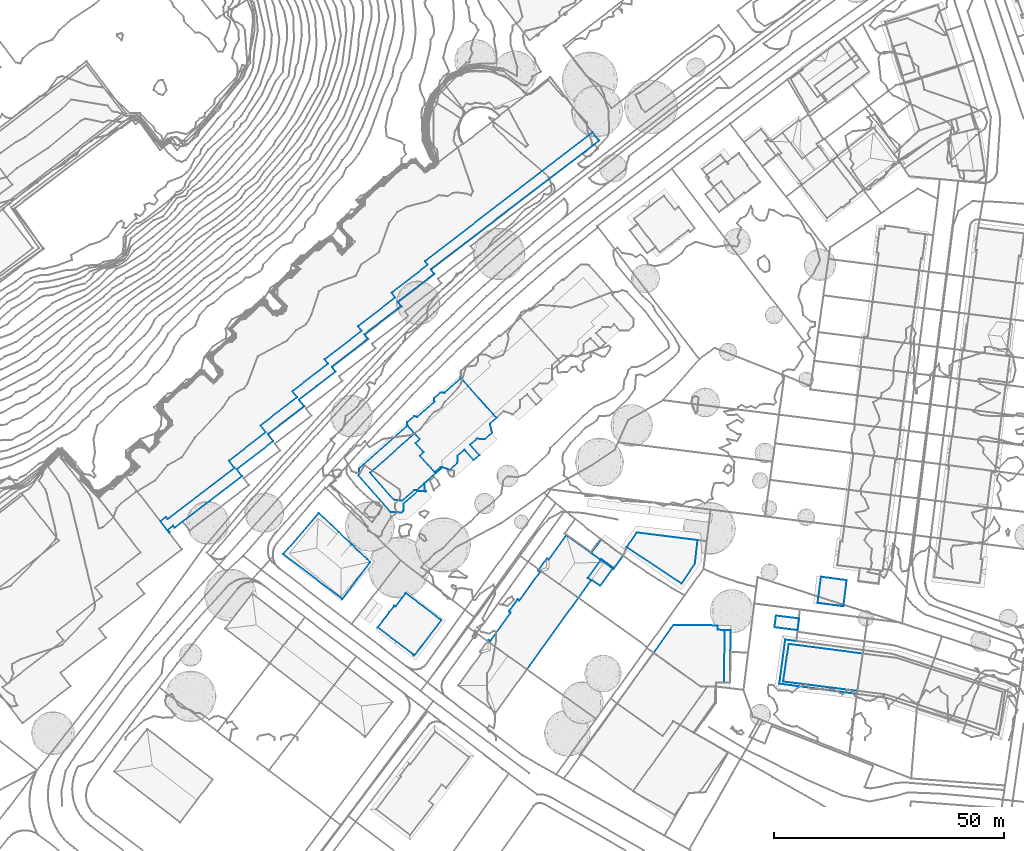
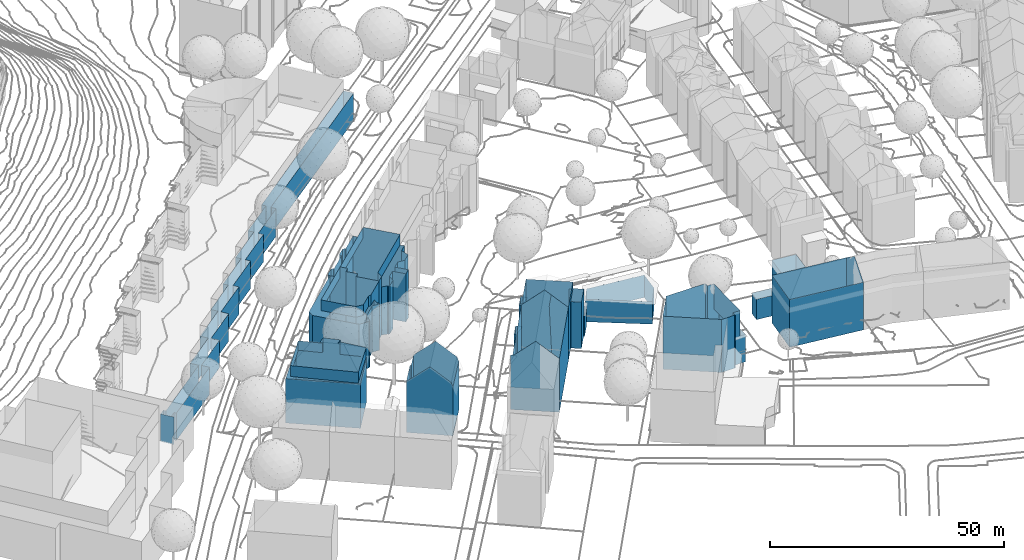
# Not in any storey, part 31 of 494: 12 walls.
"""IFC2X3 model written with IfcOpenShell, lengths in metres."""

from ifc_helpers import new_model, si_unit, frame, origin_with_axes, place, context, subcontext, project, faceted_brep, element, save


model = new_model("IFC2X3")

# Units and contexts
model_context = context("Model", 3, precision=1e-05, world=origin_with_axes())
body_context = subcontext(model_context, "Body", "Model", "MODEL_VIEW")
ifc_project = project(units=[si_unit("AREAUNIT", "SQUARE_METRE"), si_unit("LENGTHUNIT", "METRE")], contexts=[model_context])

# Walls
wall_1_placement = place(None, frame((340.8067320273, 67.2771160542, 499.5586), z_axis=(0.0, 0.0, 1.0), x_axis=(1.0, 0.0, 0.0)))
element("IfcWall", 1, at=wall_1_placement, Name="Wall 0", context=body_context, shape_type="Brep", body=[
    faceted_brep([(7.5969999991, -9.3476000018, 15.3595), (6.2359999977, -10.5556000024, 15.3595), (7.5969999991, -9.3476000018, 0.095), (7.5209999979, -7.7851000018, 15.3595), (7.5929999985, -9.2568000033, 12.5588), (7.5209999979, -7.7851000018, 12.5588), (7.5929999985, -9.2568000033, 0.095), (18.8200000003, 2.2441999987, 15.3595), (18.8200000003, 2.2441999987, 12.5588), (1.6530000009, -1.8671000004, 15.3595), (13.2949999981, 8.4667999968, 15.3595), (1.6530000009, -1.8671000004, 12.5588), (11.699000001, 10.0976999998, 12.5588), (11.7049999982, 10.2568999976, 12.5588), (11.699000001, 10.0976999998, 0.0), (8.1259999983, 6.9316999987, 12.5588), (8.1259999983, 6.9316999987, 0.0), (8.0399999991, 7.0283999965, 12.5588), (8.0399999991, 7.0283999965, 0.0), (7.3550000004, 7.0566999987, 12.5588), (7.3550000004, 7.0566999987, 0.0), (5.9439999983, 5.8046999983, 12.5588), (5.9439999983, 5.8046999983, 0.0), (5.8999999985, 5.1328999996, 12.5588), (5.8999999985, 5.1328999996, 0.0), (5.9859999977, 5.0351999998, 12.5588), (5.9859999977, 5.0351999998, 0.0), (2.2349999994, 1.7138999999, 12.5588), (2.2349999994, 1.7138999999, 0.0), (2.1490000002, 1.8105999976, 12.5588), (2.1490000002, 1.8105999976, 0.0), (1.4869999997, 1.8486999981, 12.5588), (1.4869999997, 1.8486999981, 0.0), (0.0379999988, 0.5615999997, 12.5588), (0.0379999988, 0.5615999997, 0.0), (0.0, 0.0, 12.5588), (0.0, 0.0, 0.0), (9.0009999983, -9.7988000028, 12.5588), (8.8339999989, -9.6103000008, 12.5588), (9.0009999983, -9.7988000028, 0.0), (9.3159999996, -9.8183000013, 12.5588), (9.3159999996, -9.8183000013, 0.0), (10.9439999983, -8.3740000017, 12.5588), (10.9439999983, -8.3740000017, 0.0), (11.0419999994, -6.6972000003, 12.5588), (11.0419999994, -6.6972000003, 0.0), (12.5170000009, -5.3916000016, 12.5588), (12.5170000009, -5.3916000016, 0.0), (14.5480000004, -7.6601000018, 12.5588), (14.5480000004, -7.6601000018, 0.0), (15.7719999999, -6.5732000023, 12.5588), (15.7719999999, -6.5732000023, 0.0), (13.7280000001, -4.3193000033, 12.5588), (13.7280000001, -4.3193000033, 0.0), (15.1950000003, -3.0205000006, 12.5588), (15.1950000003, -3.0205000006, 0.0), (16.8829999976, -3.1611000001, 12.5588), (16.8829999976, -3.1611000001, 0.0), (18.4919999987, -1.7119000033, 12.5588), (18.4919999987, -1.7119000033, 0.0), (18.0460000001, 0.2822999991, 12.5588), (18.0460000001, 0.2822999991, 0.0), (19.4529999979, 1.5312999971, 12.5588), (19.4529999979, 1.5312999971, 0.0), (7.3299999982, -9.1816000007, 0.095), (6.0359999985, -10.3291000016, 0.0), (7.3299999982, -9.1816000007, 0.0), (8.8339999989, -9.6103000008, 0.0), (1.862999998, -3.9589000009, 15.3595), (2.7839999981, -3.1435000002, 15.3595), (1.862999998, -3.9589000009, 0.0), (6.0359999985, -10.3291000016, 0.095), (6.2359999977, -10.5556000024, 0.095), (2.8039999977, -6.6796000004, 15.3595), (2.8039999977, -6.6796000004, 0.0), (11.7049999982, 10.2568999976, 0.0), (13.2949999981, 8.4667999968, 12.5588), (2.7839999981, -3.1435000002, 0.0), (3.6270000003, -5.9501000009, 15.3595), (3.6270000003, -5.9501000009, 0.0)], [[[0, 1, 2]], [[3, 4, 5]], [[4, 3, 0]], [[4, 2, 6]], [[2, 4, 0]], [[7, 3, 8]], [[9, 10, 11]], [[12, 13, 14]], [[15, 12, 16]], [[17, 15, 18]], [[19, 17, 20]], [[21, 19, 22]], [[23, 21, 24]], [[25, 23, 26]], [[27, 25, 28]], [[29, 27, 30]], [[31, 29, 32]], [[33, 31, 34]], [[35, 33, 36]], [[37, 38, 39]], [[40, 37, 41]], [[42, 40, 43]], [[44, 42, 45]], [[46, 44, 47]], [[48, 46, 49]], [[50, 48, 51]], [[52, 50, 53]], [[54, 52, 55]], [[56, 54, 57]], [[58, 56, 59]], [[60, 58, 61]], [[62, 60, 63]], [[64, 65, 66]], [[67, 38, 6]], [[6, 38, 4]], [[6, 64, 66]], [[6, 66, 67]], [[68, 69, 70]], [[1, 71, 72]], [[71, 1, 73]], [[71, 74, 65]], [[74, 71, 73]], [[75, 76, 63]], [[76, 75, 13]], [[7, 8, 10]], [[62, 63, 8]], [[69, 9, 11]], [[77, 11, 36]], [[11, 77, 69]], [[78, 68, 79]], [[73, 78, 74]], [[1, 72, 2]], [[3, 5, 8]], [[10, 76, 11]], [[13, 75, 14]], [[12, 14, 16]], [[15, 16, 18]], [[17, 18, 20]], [[19, 20, 22]], [[21, 22, 24]], [[23, 24, 26]], [[25, 26, 28]], [[27, 28, 30]], [[29, 30, 32]], [[31, 32, 34]], [[33, 34, 36]], [[38, 67, 39]], [[37, 39, 41]], [[40, 41, 43]], [[42, 43, 45]], [[44, 45, 47]], [[46, 47, 49]], [[48, 49, 51]], [[50, 51, 53]], [[52, 53, 55]], [[54, 55, 57]], [[56, 57, 59]], [[58, 59, 61]], [[60, 61, 63]], [[71, 65, 64]], [[69, 77, 70]], [[76, 8, 63]], [[8, 76, 10]], [[11, 35, 36]], [[68, 70, 79]], [[78, 79, 74]]]),
])
wall_2_placement = place(None, frame((330.2977320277, 56.1951160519, 500.0165), z_axis=(0.0, 0.0, 1.0), x_axis=(1.0, 0.0, 0.0)))
element("IfcWall", 2, at=wall_2_placement, Name="Wall 0", context=body_context, shape_type="Brep", body=[
    faceted_brep([(16.7449999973, 0.5263999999, 14.9016), (14.3189999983, -1.6279000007, 12.1009), (16.7449999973, 0.5263999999, -0.028), (12.6629999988, -3.0986000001, 14.9016), (14.3189999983, -1.6279000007, 0.0), (12.6629999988, -3.0986000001, -0.028), (12.6629999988, -3.0986000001, 12.1009), (12.6629999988, -3.0986000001, 0.0), (13.3129999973, 4.4024000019, -0.028), (13.3129999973, 4.4024000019, 14.9016), (13.2929999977, 7.938500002, 14.9016), (12.3719999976, 7.1231000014, 14.9016), (13.2929999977, 7.938500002, -0.028), (2.4809999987, 0.6220999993, 14.9016), (12.1620000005, 9.2149000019, 14.9016), (2.4809999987, 0.6220999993, 12.1009), (7.6979999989, -5.254900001, 0.0), (2.4809999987, 0.6220999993, 0.0), (7.6979999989, -5.254900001, -0.028), (9.4509999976, -5.4442999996, 0.0), (9.4509999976, -5.4442999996, -0.028), (12.0229999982, -3.1611000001, 0.0), (12.0229999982, -3.1611000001, -0.028), (0.1019999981, 1.5967000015, 12.1009), (10.6409999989, 10.932599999, 12.1009), (0.1019999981, 1.5967000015, 0.0), (0.0, 0.0, 12.1009), (0.0, 0.0, 0.0), (6.9910000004, -7.8768999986, 12.1009), (6.9910000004, -7.8768999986, 0.0), (9.3449999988, -8.0175999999, 12.1009), (9.3449999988, -8.0175999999, 0.0), (9.7049999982, -7.7245999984, 12.1009), (9.7049999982, -7.7245999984, 0.0), (9.8019999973, -6.0546999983, 12.1009), (9.8019999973, -6.0546999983, 0.0), (12.8499999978, -3.316399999, 12.1009), (12.8499999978, -3.316399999, 0.0), (14.5249999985, -3.4404000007, 12.1009), (14.5249999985, -3.4404000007, 0.0), (14.6799999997, -3.3037, 12.1009), (14.6799999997, -3.3037, 0.0), (14.3640000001, -2.9481999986, 12.1009), (14.3640000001, -2.9481999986, 0.0), (14.1359999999, 5.1319000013, 14.9016), (14.1359999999, 5.1319000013, -0.028), (12.3719999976, 7.1231000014, -0.028), (12.1620000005, 9.2149000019, 0.0), (2.4809999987, 0.6220999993, -0.028), (7.6979999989, -5.254900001, 14.9016), (7.6979999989, -5.254900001, 12.1009), (9.4509999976, -5.4442999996, 14.9016), (9.4509999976, -5.4442999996, 12.1009), (12.0229999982, -3.1611000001, 14.9016), (12.0229999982, -3.1611000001, 12.1009), (12.1620000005, 9.2149000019, 12.1009), (12.1620000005, 9.2149000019, -0.028), (10.6409999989, 10.932599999, 0.0)], [[[0, 1, 2]], [[1, 0, 3]], [[2, 4, 5]], [[4, 2, 1]], [[3, 6, 1]], [[7, 5, 4]], [[8, 9, 0]], [[10, 11, 12]], [[13, 14, 15]], [[16, 17, 18]], [[19, 16, 20]], [[21, 19, 22]], [[7, 21, 5]], [[23, 24, 25]], [[26, 23, 27]], [[28, 26, 29]], [[30, 28, 31]], [[32, 30, 33]], [[34, 32, 35]], [[36, 34, 37]], [[38, 36, 39]], [[40, 38, 41]], [[42, 40, 43]], [[44, 9, 45]], [[11, 45, 46]], [[17, 47, 48]], [[49, 13, 50]], [[51, 49, 52]], [[53, 51, 54]], [[3, 53, 6]], [[1, 42, 4]], [[55, 47, 24]], [[56, 47, 12]], [[55, 10, 12]], [[0, 2, 8]], [[11, 46, 12]], [[14, 55, 15]], [[17, 48, 18]], [[16, 18, 20]], [[19, 20, 22]], [[21, 22, 5]], [[24, 57, 25]], [[23, 25, 27]], [[26, 27, 29]], [[28, 29, 31]], [[30, 31, 33]], [[32, 33, 35]], [[34, 35, 37]], [[36, 37, 39]], [[38, 39, 41]], [[40, 41, 43]], [[9, 8, 45]], [[44, 45, 11]], [[47, 56, 48]], [[13, 15, 50]], [[49, 50, 52]], [[51, 52, 54]], [[53, 54, 6]], [[42, 43, 4]], [[47, 57, 24]], [[14, 10, 55]], [[12, 47, 55]]]),
])
wall_3_placement = place(None, frame((388.6417320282, 40.6092160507, 499.4665), z_axis=(0.0, 0.0, 1.0), x_axis=(1.0, 0.0, 0.0)))
element("IfcWall", 3, at=wall_3_placement, Name="Wall 0", context=body_context, shape_type="Brep", body=[
    faceted_brep([(15.425999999, 1.5498000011, 5.8824), (14.8159999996, -3.6132999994, 5.8824), (15.425999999, 1.5498000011, 0.0), (2.1380000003, 3.2187000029, 5.8824), (2.1380000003, 3.2187000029, 0.0), (0.0, 0.0, 5.8824), (0.0, 0.0, 0.0), (11.9599999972, -7.9247999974, 5.8824), (11.9599999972, -7.9247999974, 0.0), (14.8159999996, -3.6132999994, 0.0)], [[[0, 1, 2]], [[3, 0, 4]], [[5, 3, 6]], [[7, 5, 8]], [[1, 7, 9]], [[1, 9, 2]], [[0, 2, 4]], [[3, 4, 6]], [[5, 6, 8]], [[7, 8, 9]]]),
])
wall_4_placement = place(None, frame((369.4907320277, 35.7234160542, 499.6315), z_axis=(0.0, 0.0, 1.0), x_axis=(1.0, 0.0, 0.0)))
element("IfcWall", 4, at=wall_4_placement, Name="Wall 0", context=body_context, shape_type="Brep", body=[
    faceted_brep([(16.629999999, 4.2685999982, 5.3015), (18.318, 3.0195999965, 5.3015), (16.629999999, 4.2685999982, -0.038), (13.5739999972, 6.5800999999, 5.3015), (13.5739999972, 6.5800999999, -0.038), (11.4210000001, 3.5898999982, 5.3015), (11.4210000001, 3.5898999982, 0.0), (11.4210000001, 3.5898999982, -0.038), (16.2229999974, 0.1318999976, 5.3015), (18.318, 3.0195999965, -0.038), (11.4769999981, -2.2109000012, 12.0918), (11.3949999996, -2.3252000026, 12.0918), (11.4769999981, -2.2109000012, -0.021), (13.3389999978, -3.5127000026, 12.0918), (13.3389999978, -3.5127000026, -0.021), (11.3649999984, -2.3027000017, 0.0), (11.3949999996, -2.3252000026, -0.021), (11.3649999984, -2.3027000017, 12.0918), (10.6519999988, -1.7890000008, -0.021), (16.0519999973, 0.2548999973, 5.3015), (16.2009999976, 0.4609999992, 5.3015), (16.2009999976, 0.4609999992, 12.0918), (16.0519999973, 0.2548999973, -0.021), (13.6149999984, 2.3232999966, 12.0918), (13.6149999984, 2.3232999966, 5.3015), (10.6519999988, -1.7890000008, 0.0), (13.4670000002, 2.1171999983, 0.0), (2.1679999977, 2.1728999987, 13.9787), (5.9979999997, 7.495199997, 13.9787), (2.1679999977, 2.1728999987, 0.0), (1.7650000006, 2.4628999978, 13.9787), (1.7650000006, 2.4628999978, 0.0), (16.2229999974, 0.1318999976, -0.038), (13.4670000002, 2.1171999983, -0.021), (13.4670000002, 2.1171999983, 5.3015), (13.4659999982, 2.116299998, 12.0918), (14.1779999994, 1.6035999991, 13.9787), (14.1779999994, 1.6035999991, 12.0918), (8.5969999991, -6.1464000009, 13.9786), (8.5969999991, -6.1464000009, 0.0), (5.9979999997, 7.495199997, 0.0), (11.4210000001, 3.5898999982, 13.9787), (0.0, 0.0, 14.1067), (1.6439999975, 2.2939999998, 14.1017), (0.0, 0.0, 0.0), (0.0249999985, -0.0175000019, 14.1326), (0.5480000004, -0.3916000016, 14.1346), (4.4399999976, -3.1738000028, 18.1723), (4.4399999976, -3.1738000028, 0.0), (0.5480000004, -0.3916000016, 0.0)], [[[0, 1, 2]], [[3, 0, 4]], [[5, 3, 6]], [[6, 4, 7]], [[1, 8, 9]], [[10, 11, 12]], [[13, 10, 14]], [[11, 15, 16]], [[15, 11, 17]], [[16, 15, 18]], [[19, 20, 21]], [[19, 13, 14]], [[13, 19, 21]], [[19, 14, 22]], [[23, 21, 24]], [[25, 26, 18]], [[27, 28, 29]], [[30, 27, 31]], [[22, 8, 19]], [[32, 22, 33]], [[26, 6, 33]], [[33, 7, 32]], [[7, 33, 6]], [[23, 34, 35]], [[36, 17, 37]], [[17, 36, 38]], [[17, 39, 15]], [[39, 17, 38]], [[28, 5, 40]], [[5, 28, 41]], [[6, 40, 5]], [[41, 36, 35]], [[37, 35, 36]], [[34, 5, 35]], [[35, 5, 41]], [[42, 43, 30]], [[42, 30, 44]], [[30, 31, 44]], [[45, 42, 46]], [[38, 47, 46]], [[48, 38, 46]], [[46, 42, 49]], [[44, 49, 42]], [[48, 39, 38]], [[48, 46, 49]], [[1, 9, 2]], [[0, 2, 4]], [[3, 4, 6]], [[8, 32, 9]], [[11, 16, 12]], [[10, 12, 14]], [[15, 25, 18]], [[21, 20, 24]], [[26, 33, 18]], [[28, 40, 29]], [[27, 29, 31]], [[32, 8, 22]], [[24, 34, 23]]]),
])
wall_5_placement = place(None, frame((313.8287320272, 39.0809160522, 500.1915), z_axis=(0.0, 0.0, 1.0), x_axis=(1.0, 0.0, 0.0)))
element("IfcWall", 5, at=wall_5_placement, Name="Wall 0", context=body_context, shape_type="Brep", body=[
    faceted_brep([(0.0, 0.0, 11.5769), (7.7670000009, 8.9550000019, 11.5769), (0.0, 0.0, 0.0), (12.8499999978, -9.7138999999, 11.5769), (12.8499999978, -9.7138999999, 0.0), (18.9620000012, -1.7364000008, 11.5769), (18.9620000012, -1.7364000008, 0.0), (7.5929999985, 7.8104999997, 14.0567), (11.6629999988, 4.4257000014, 14.0567), (7.5929999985, 7.8104999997, 11.5769), (1.2569999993, 0.1981999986, 14.4256), (1.2569999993, 0.1981999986, 11.5769), (12.5839999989, -9.2294999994, 14.4256), (12.5839999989, -9.2294999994, 11.5769), (9.4979999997, 1.8242000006, 16.6284), (11.6629999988, 4.4257000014, 15.2725), (12.0370000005, 4.8768999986, 15.0366), (12.0370000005, 4.8768999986, 11.5769), (11.6629999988, 4.4257000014, 11.5769), (14.5, 1.932599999, 15.2845), (14.5, 1.932599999, 14.9096), (14.5659999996, 2.0126999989, 14.8676), (14.5649999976, 2.0106999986, 14.8316), (14.7749999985, 2.2626999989, 15.1405), (14.5659999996, 2.0126999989, 15.2425), (14.7749999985, 2.2626999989, 11.5769), (14.5649999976, 2.0106999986, 11.5769), (14.5649999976, 2.0106999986, 15.2725), (12.3999999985, -0.5909000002, 16.6284), (18.2580000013, -1.0645000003, 14.1746), (18.881000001, -1.6592000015, 14.0586), (18.881000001, -1.6592000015, 11.5769), (12.0370000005, 4.8768999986, 0.0), (7.7670000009, 8.9550000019, 0.0), (14.7749999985, 2.2626999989, 0.0), (18.2580000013, -1.0645000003, 11.5769), (18.2580000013, -1.0645000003, 0.0), (18.8499999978, -1.628899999, 14.0986)], [[[0, 1, 2]], [[3, 0, 4]], [[5, 3, 6]], [[7, 8, 9]], [[10, 7, 11]], [[12, 10, 13]], [[14, 15, 8]], [[8, 15, 16]], [[8, 17, 18]], [[19, 20, 21]], [[22, 23, 21]], [[21, 24, 19]], [[25, 22, 26]], [[23, 22, 25]], [[27, 24, 23]], [[19, 27, 28]], [[22, 21, 20]], [[22, 20, 28]], [[28, 20, 19]], [[24, 27, 19]], [[22, 29, 26]], [[30, 13, 31]], [[25, 16, 23]], [[32, 33, 17]], [[32, 17, 34]], [[35, 36, 25]], [[35, 37, 31]], [[37, 35, 29]], [[30, 31, 37]], [[31, 6, 35]], [[1, 33, 2]], [[0, 2, 4]], [[3, 4, 6]], [[8, 18, 9]], [[7, 9, 11]], [[10, 11, 13]], [[16, 17, 8]], [[23, 24, 21]], [[29, 35, 26]], [[12, 13, 30]], [[17, 16, 25]], [[33, 1, 17]], [[17, 25, 34]], [[36, 34, 25]], [[6, 36, 35]], [[31, 5, 6]]]),
])
wall_6_placement = place(None, frame((394.4647320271, 17.5984160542, 499.0235), z_axis=(0.0, 0.0, 1.0), x_axis=(1.0, 0.0, 0.0)))
element("IfcWall", 6, at=wall_6_placement, Name="Wall 0", context=body_context, shape_type="Brep", body=[
    faceted_brep([(13.938000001, 5.995199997, 13.8347), (13.9409999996, 5.0370999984, 13.8347), (13.938000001, 5.995199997, 0.0), (10.2760000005, -7.3496000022, 13.8347), (0.0, 0.0, 13.8347), (10.2760000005, -7.3496000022, 0.0), (13.493999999, -7.3613000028, 13.8347), (13.495000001, -7.3378000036, 7.1923), (13.493999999, -7.3613000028, 0.0), (13.6490000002, -6.4091000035, 13.8347), (13.6359999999, -7.3623000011, 13.8347), (13.6490000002, -6.4091000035, 0.0), (15.4910000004, 5.0146999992, 13.8347), (15.3619999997, -6.4326000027, 7.1923), (15.4910000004, 5.0146999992, 7.1923), (16.7879999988, 4.995199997, 7.1923), (16.6579999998, -6.4521000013, 7.1923), (16.7879999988, 4.995199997, 0.0), (4.3720000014, 6.1025999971, 0.0), (4.3720000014, 6.1025999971, 13.8347), (13.6359999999, -7.3623000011, 0.0), (13.9409999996, 5.0370999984, 0.0), (15.4910000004, 5.0146999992, 0.0), (3.7740000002, 5.2734999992, 13.8347), (0.0, 0.0, 0.0), (3.7740000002, 5.2734999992, 0.0), (11.8640000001, -7.3427000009, 0.0), (11.8640000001, -7.3427000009, 13.8347), (12.8969999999, -7.3437000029, 0.0), (13.495000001, -7.3369000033, 0.0), (13.495000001, -7.3369000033, 13.8347), (11.7419999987, -7.3427000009, 0.0), (11.7419999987, -7.3427000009, 13.8347), (15.3619999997, -6.433600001, 0.0), (16.6579999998, -6.4521000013, 0.0), (15.3619999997, -6.433600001, 13.8347)], [[[0, 1, 2]], [[3, 4, 5]], [[6, 7, 8]], [[9, 10, 11]], [[12, 13, 14]], [[15, 16, 17]], [[18, 0, 2]], [[0, 18, 19]], [[10, 6, 20]], [[21, 14, 22]], [[15, 22, 14]], [[4, 23, 24]], [[18, 25, 19]], [[26, 7, 27]], [[28, 29, 7]], [[26, 28, 7]], [[7, 30, 27]], [[26, 27, 31]], [[31, 32, 5]], [[33, 16, 13]], [[33, 34, 16]], [[13, 9, 11]], [[9, 13, 35]], [[13, 11, 33]], [[1, 21, 2]], [[4, 24, 5]], [[30, 7, 6]], [[7, 29, 8]], [[10, 20, 11]], [[35, 13, 12]], [[16, 34, 17]], [[6, 8, 20]], [[1, 12, 14]], [[1, 14, 21]], [[17, 22, 15]], [[23, 25, 24]], [[25, 23, 19]], [[27, 32, 31]], [[32, 3, 5]]]),
])
wall_7_placement = place(None, frame((420.8027320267, 23.1951160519, 499.3155), z_axis=(0.0, 0.0, 1.0), x_axis=(1.0, 0.0, 0.0)))
element("IfcWall", 7, at=wall_7_placement, Name="Wall 0", context=body_context, shape_type="Brep", body=[
    faceted_brep([(0.3220000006, 2.5313000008, 5.3155), (5.3189999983, 1.8975000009, 5.3155), (0.3220000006, 2.5313000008, 0.0), (0.0, 0.0, 5.3155), (0.0, 0.0, 0.0), (5.0469999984, -0.6405999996, 5.3155), (5.0469999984, -0.6405999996, 0.0), (5.3189999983, 1.8975000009, 0.0)], [[[0, 1, 2]], [[3, 0, 4]], [[5, 3, 6]], [[1, 5, 7]], [[1, 7, 2]], [[0, 2, 4]], [[3, 4, 6]], [[5, 6, 7]]]),
])
wall_8_placement = place(None, frame((334.417732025, 23.1512160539, 500.1795), z_axis=(0.0, 0.0, 1.0), x_axis=(1.0, 0.0, 0.0)))
element("IfcWall", 8, at=wall_8_placement, Name="Wall 0", context=body_context, shape_type="Brep", body=[
    faceted_brep([(1.3600000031, 1.7801999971, 3.3307), (1.1110000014, 1.4540999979, 13.3337), (2.5240000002, 3.3055999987, 0.0), (0.0, 0.0, 0.0), (0.0, 0.0, 13.3317), (5.2640000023, -4.0196000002, 16.3224), (4.0270000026, -3.0752000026, 17.5753), (4.0270000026, -3.0752000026, 0.0), (1.0030000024, -0.7666000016, 14.3886), (7.0940000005, 6.7157999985, 14.6486), (8.2170000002, 5.8574000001, 0.0), (6.0840000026, 7.4862999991, 13.5847), (6.0840000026, 7.4862999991, 0.0), (9.8710000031, 4.5946999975, 17.5753), (10.5210000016, 4.0986000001, 16.9163), (9.8710000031, 4.5946999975, 5.8584), (10.7310000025, 3.9375, 0.0), (3.8630000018, 4.5702999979, 13.5857), (3.8630000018, 4.5702999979, 0.0), (3.6270000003, 4.75, 0.0), (3.6270000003, 4.75, 13.3377), (7.6610000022, -5.8506000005, 0.0), (7.6610000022, -5.8506000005, 13.8926), (11.2520000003, 3.5389999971, 16.1754), (12.1420000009, 2.860299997, 3.1907), (13.5040000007, 1.8192999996, 13.8926), (13.8380000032, 1.5643999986, 0.0), (12.5370000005, -0.1338, 0.0), (13.8380000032, 1.5643999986, 12.8007), (11.8350000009, -1.0498000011, 12.8247), (11.0450000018, -2.0791000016, 0.0), (10.324000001, -3.0205000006, 12.8427), (9.7310000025, -3.7959000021, 0.0), (7.7160000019, -5.8936000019, 0.0), (7.7149999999, -5.8925999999, 13.7156), (9.3000000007, -4.3574000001, 4.8115), (9.3000000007, -4.3574000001, 12.8547), (8.870000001, -4.9189999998, 12.8597), (8.8570000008, -4.9356000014, 0.0), (7.9730000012, -6.0899000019, 12.8707), (7.9730000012, -6.0899000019, 0.0), (2.5720000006, 3.3680999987, 13.3357)], [[[0, 1, 2]], [[3, 4, 1]], [[0, 2, 3]], [[0, 3, 1]], [[5, 6, 3]], [[5, 3, 7]], [[4, 3, 8]], [[9, 10, 11]], [[11, 10, 12]], [[13, 14, 10]], [[15, 10, 14]], [[15, 16, 10]], [[17, 11, 18]], [[11, 12, 18]], [[19, 20, 17]], [[18, 19, 17]], [[21, 22, 5]], [[5, 7, 21]], [[16, 23, 24]], [[14, 23, 15]], [[23, 25, 24]], [[24, 26, 16]], [[27, 28, 29]], [[26, 28, 27]], [[29, 30, 27]], [[31, 32, 30]], [[26, 25, 28]], [[33, 34, 21]], [[35, 36, 37]], [[38, 37, 39]], [[35, 31, 36]], [[32, 31, 35]], [[38, 32, 35]], [[39, 40, 38]], [[34, 33, 39]], [[39, 33, 40]], [[1, 41, 2]], [[41, 20, 19]], [[2, 41, 19]], [[6, 8, 3]], [[13, 10, 9]], [[23, 16, 15]], [[25, 26, 24]], [[29, 31, 30]], [[22, 21, 34]], [[35, 37, 38]]]),
])
wall_9_placement = place(None, frame((430.1957320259, 28.5057160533, 499.7544), z_axis=(0.0, 0.0, 1.0), x_axis=(1.0, 0.0, 0.0)))
element("IfcWall", 9, at=wall_9_placement, Name="Wall 0", context=body_context, shape_type="Brep", body=[
    faceted_brep([(0.7470000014, 5.6649999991, 4.9066), (6.3170000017, 4.9305999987, 4.9066), (0.7470000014, 5.6649999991, 0.0), (0.0, 0.0, 4.9066), (0.0, 0.0, 0.0), (5.6220000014, -0.7412, 4.9065), (5.6220000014, -0.7412, 0.0), (6.3170000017, 4.9305999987, 0.0)], [[[0, 1, 2]], [[3, 0, 4]], [[5, 3, 6]], [[1, 5, 7]], [[1, 7, 2]], [[0, 2, 4]], [[3, 4, 6]], [[5, 6, 7]]]),
])
wall_10_placement = place(None, frame((358.3217320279, 20.123816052, 499.6315), z_axis=(0.0, 0.0, 1.0), x_axis=(1.0, 0.0, 0.0)))
element("IfcWall", 10, at=wall_10_placement, Name="Wall 0", context=body_context, shape_type="Brep", body=[
    faceted_brep([(8.5529999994, -6.121100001, 13.9786), (4.3979999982, -3.1473999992, 0.0), (8.5529999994, -6.121100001, 0.0), (19.7679999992, 9.4550999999, 13.9786), (19.7679999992, 9.4550999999, 0.0), (15.6089999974, 12.4248000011, 18.1723), (15.6089999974, 12.4248000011, 0.0), (6.4149999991, 8.9600000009, 14.1266), (6.557, 9.1581999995, 13.9787), (6.557, 9.1581999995, 0.0), (6.935999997, 8.884800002, 0.0), (6.935999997, 8.884800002, 13.9787), (11.424999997, 15.1182000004, 13.9787), (11.7170000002, 15.2071000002, 14.1346), (11.7170000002, 15.2071000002, 0.0), (11.0289999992, 15.4033000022, 13.9787), (11.1479999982, 15.5694000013, 14.1087), (11.0289999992, 15.4033000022, 0.0), (11.1689999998, 15.5996000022, 0.0), (11.424999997, 15.1182000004, 0.0), (11.1939999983, 15.5811000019, 14.1326), (11.1939999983, 15.5811000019, 0.0), (11.1689999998, 15.5996000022, 14.1067), (4.3979999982, -3.1473999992, 18.1722), (0.5859999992, -0.4188999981, 14.2176), (0.5869999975, 0.066399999, 13.9787), (5.0409999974, 6.2529999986, 13.9787), (0.5869999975, 0.066399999, 0.0), (0.0, 0.0, 0.0), (0.5859999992, -0.4188999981, 0.0), (0.231999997, 0.3233000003, 0.0), (0.231999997, 0.3233000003, 13.9787), (0.0, 0.0, 14.1506), (0.0659999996, -0.0467999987, 14.2186), (4.810999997, 6.7197999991, 14.1326), (4.6689999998, 6.5205000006, 0.0), (4.6689999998, 6.5205000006, 13.9787), (5.0409999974, 6.2529999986, 0.0), (5.2119999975, 7.2802999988, 5.2975), (5.8149999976, 8.1220999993, 14.1286), (5.9389999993, 8.2949000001, 5.9574), (5.3530000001, 7.4776000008, 14.1306), (4.810999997, 6.7197999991, 0.0), (5.612999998, 7.8399000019, 0.0), (0.0659999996, 0.0918000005, 14.1506)], [[[0, 1, 2]], [[3, 0, 4]], [[5, 3, 6]], [[7, 8, 9]], [[8, 10, 9]], [[10, 8, 11]], [[11, 12, 10]], [[13, 6, 14]], [[15, 16, 17]], [[16, 18, 17]], [[12, 15, 19]], [[15, 17, 19]], [[20, 14, 21]], [[18, 22, 20]], [[21, 18, 20]], [[23, 24, 1]], [[25, 26, 27]], [[24, 28, 29]], [[30, 31, 25]], [[27, 30, 25]], [[28, 32, 30]], [[33, 32, 28]], [[34, 35, 36]], [[26, 35, 37]], [[35, 26, 36]], [[38, 39, 40]], [[34, 41, 42]], [[38, 43, 42]], [[39, 7, 40]], [[40, 43, 38]], [[7, 9, 40]], [[40, 9, 43]], [[23, 1, 0]], [[0, 2, 4]], [[3, 4, 6]], [[12, 19, 10]], [[5, 6, 13]], [[13, 14, 20]], [[16, 22, 18]], [[24, 29, 1]], [[26, 37, 27]], [[44, 31, 30]], [[33, 28, 24]], [[32, 44, 30]], [[35, 34, 42]], [[41, 39, 38]], [[41, 38, 42]]]),
])
wall_11_placement = place(None, frame((287.111732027, 46.2742160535, 500.3625), z_axis=(0.0, 0.0, 1.0), x_axis=(1.0, 0.0, 0.0)))
element("IfcWall", 11, at=wall_11_placement, Name="Wall 0", context=body_context, shape_type="Brep", body=[
    faceted_brep([(16.6169999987, 11.3145000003, 7.1803), (17.7509999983, 9.8407999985, 0.0), (16.6169999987, 11.3145000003, 0.0), (24.5659999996, 17.436499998, 7.1803), (24.5659999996, 17.436499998, 0.0), (23.4169999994, 18.936499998, 7.1803), (23.4169999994, 18.936499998, 0.0), (23.5540000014, 19.0409999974, 7.1803), (23.5540000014, 19.0409999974, 0.0), (23.5199999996, 19.0859999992, 7.1803), (23.5199999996, 19.0859999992, 0.0), (31.2809999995, 25.0595999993, 7.1803), (31.2809999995, 25.0595999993, 0.0), (30.180999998, 26.4892999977, 7.1803), (30.180999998, 26.4892999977, 0.0), (30.2039999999, 26.5136999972, 7.1803), (30.2039999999, 26.5136999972, 0.0), (34.0, 29.4287, 7.1803), (34.0, 29.4287, 0.0), (38.131000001, 32.6006000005, 7.1803), (38.131000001, 32.6006000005, 0.0), (37.3959999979, 33.5605999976, 7.1804), (37.3959999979, 33.5605999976, 0.0), (37.4419999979, 33.5956999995, 7.1804), (37.4419999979, 33.5956999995, 0.0), (37.3500000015, 33.7157999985, 7.1804), (37.3500000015, 33.7157999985, 0.0), (45.1600000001, 39.7275999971, 7.1804), (45.1600000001, 39.7275999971, 0.0), (44.4059999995, 40.7099999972, 7.1804), (44.4059999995, 40.7099999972, 0.0), (52.3969999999, 46.8603999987, 7.1804), (52.3969999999, 46.8603999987, 0.0), (51.7580000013, 47.7001999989, 7.1804), (51.7580000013, 47.7001999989, 0.0), (51.8519999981, 47.7724999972, 7.1804), (51.8519999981, 47.7724999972, 0.0), (51.7800000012, 47.8662, 7.1804), (51.7800000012, 47.8662, 0.0), (59.6220000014, 53.9013999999, 7.1804), (59.6220000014, 53.9013999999, 0.0), (58.943, 54.7890999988, 7.1804), (58.943, 54.7890999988, 0.0), (59.006000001, 54.8378999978, 7.1804), (59.006000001, 54.8378999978, 0.0), (58.932, 54.9345999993, 7.1804), (58.932, 54.9345999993, 0.0), (95.4860000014, 82.8574000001, 7.1804), (95.4860000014, 82.8574000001, 0.0), (94.0659999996, 84.7060999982, 7.1804), (94.0659999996, 84.7060999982, 0.0), (57.6119999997, 56.6493999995, 7.1804), (57.6119999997, 56.6493999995, 0.0), (58.2199999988, 55.8594000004, 7.1804), (58.2199999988, 55.8594000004, 0.0), (50.3110000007, 49.7714999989, 7.1804), (50.3110000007, 49.7714999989, 0.0), (51.1259999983, 48.7148999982, 7.1804), (51.1259999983, 48.7148999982, 0.0), (43.0359999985, 42.4872999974, 7.1804), (43.0359999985, 42.4872999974, 0.0), (43.8249999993, 41.4657999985, 7.1804), (43.8249999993, 41.4657999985, 0.0), (35.7699999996, 35.2655999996, 7.1804), (35.7699999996, 35.2655999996, 0.0), (36.5020000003, 34.3154000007, 7.1804), (36.5020000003, 34.3154000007, 0.0), (28.7509999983, 28.3476999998, 7.1804), (28.7509999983, 28.3476999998, 0.0), (29.7670000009, 27.0273999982, 7.1804), (29.7670000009, 27.0273999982, 0.0), (21.7800000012, 20.8798999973, 7.1804), (21.7800000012, 20.8798999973, 0.0), (22.9389999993, 19.373999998, 7.1803), (22.9389999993, 19.373999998, 0.0), (14.9120000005, 13.1963, 7.1803), (14.9120000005, 13.1963, 0.0), (16.1149999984, 11.6327999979, 7.1803), (16.1149999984, 11.6327999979, 0.0), (1.6050000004, 0.4657999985, 7.1803), (1.6050000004, 0.4657999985, 0.0), (1.2320000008, 0.9492000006, 7.1803), (1.2320000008, 0.9492000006, 0.0), (0.0, 0.0, 7.1803), (0.0, 0.0, 0.0), (1.8920000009, -2.4599000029, 7.1803), (1.8920000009, -2.4599000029, 0.0), (1.998999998, -2.3779000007, 7.1803), (1.998999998, -2.3779000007, 0.0), (1.6099999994, -1.8729999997, 7.1803), (1.6099999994, -1.8729999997, 0.0), (2.7769999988, -0.9765000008, 7.1803), (2.7769999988, -0.9765000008, 0.0), (3.1019999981, -1.3984000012, 7.1803), (3.1019999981, -1.3984000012, 0.0), (17.7509999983, 9.8407999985, 7.1803)], [[[0, 1, 2]], [[3, 0, 4]], [[5, 3, 6]], [[7, 5, 8]], [[9, 7, 10]], [[11, 9, 12]], [[13, 11, 14]], [[15, 13, 16]], [[17, 15, 18]], [[19, 17, 20]], [[21, 19, 22]], [[23, 21, 24]], [[25, 23, 26]], [[27, 25, 28]], [[29, 27, 30]], [[31, 29, 32]], [[33, 31, 34]], [[35, 33, 36]], [[37, 35, 38]], [[39, 37, 40]], [[41, 39, 42]], [[43, 41, 44]], [[45, 43, 46]], [[47, 45, 48]], [[49, 47, 50]], [[51, 49, 52]], [[53, 51, 54]], [[55, 53, 56]], [[57, 55, 58]], [[59, 57, 60]], [[61, 59, 62]], [[63, 61, 64]], [[65, 63, 66]], [[67, 65, 68]], [[69, 67, 70]], [[71, 69, 72]], [[73, 71, 74]], [[75, 73, 76]], [[77, 75, 78]], [[79, 77, 80]], [[81, 79, 82]], [[83, 81, 84]], [[85, 83, 86]], [[87, 85, 88]], [[89, 87, 90]], [[91, 89, 92]], [[93, 91, 94]], [[95, 93, 1]], [[95, 1, 0]], [[0, 2, 4]], [[3, 4, 6]], [[5, 6, 8]], [[7, 8, 10]], [[9, 10, 12]], [[11, 12, 14]], [[13, 14, 16]], [[15, 16, 18]], [[17, 18, 20]], [[19, 20, 22]], [[21, 22, 24]], [[23, 24, 26]], [[25, 26, 28]], [[27, 28, 30]], [[29, 30, 32]], [[31, 32, 34]], [[33, 34, 36]], [[35, 36, 38]], [[37, 38, 40]], [[39, 40, 42]], [[41, 42, 44]], [[43, 44, 46]], [[45, 46, 48]], [[47, 48, 50]], [[49, 50, 52]], [[51, 52, 54]], [[53, 54, 56]], [[55, 56, 58]], [[57, 58, 60]], [[59, 60, 62]], [[61, 62, 64]], [[63, 64, 66]], [[65, 66, 68]], [[67, 68, 70]], [[69, 70, 72]], [[71, 72, 74]], [[73, 74, 76]], [[75, 76, 78]], [[77, 78, 80]], [[79, 80, 82]], [[81, 82, 84]], [[83, 84, 86]], [[85, 86, 88]], [[87, 88, 90]], [[89, 90, 92]], [[91, 92, 94]], [[93, 94, 1]]]),
])
wall_12_placement = place(None, frame((421.872732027, 10.8992160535, 499.1825), z_axis=(0.0, 0.0, 1.0), x_axis=(1.0, 0.0, 0.0)))
element("IfcWall", 12, at=wall_12_placement, Name="Wall 0", context=body_context, shape_type="Brep", body=[
    faceted_brep([(2.0320000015, 8.6543000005, 0.031), (0.8189999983, 0.4648999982, 0.031), (2.0320000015, 8.6543000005, 0.0), (18.1640000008, 6.557599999, 0.0309), (18.1640000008, 6.557599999, 0.0), (17.0190000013, -1.5713, 0.0309), (0.8189999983, 0.4648999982, 0.0), (1.2699999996, 9.6074000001, 0.0), (1.2699999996, 9.6074000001, 12.4288), (18.2749999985, 7.3105999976, 0.0), (18.2749999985, 7.3105999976, 12.6067), (1.4210000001, 9.5878999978, 12.5358), (0.0, 0.0, 0.0), (0.0, 0.0, 12.4088), (17.6270000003, 2.7470999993, 0.0309), (16.9239999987, -2.246100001, 10.4999), (17.6270000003, 2.7470999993, 15.8974), (16.9230000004, -2.246100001, 12.4297), (17.0190000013, -1.5713, -0.0001), (16.9239999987, -2.246100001, -0.0001), (16.875, -2.2402000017, -0.0001), (0.1770000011, -0.0224000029, 0.0), (0.0879999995, -0.0117000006, 12.4718)], [[[0, 1, 2]], [[3, 0, 4]], [[1, 5, 6]], [[7, 8, 9]], [[10, 9, 8]], [[10, 8, 11]], [[12, 13, 7]], [[8, 7, 13]], [[9, 10, 3]], [[3, 4, 9]], [[14, 3, 10]], [[10, 15, 14]], [[16, 17, 15]], [[15, 5, 14]], [[18, 5, 19]], [[19, 5, 15]], [[10, 16, 15]], [[20, 15, 21]], [[20, 19, 15]], [[22, 13, 15]], [[21, 13, 12]], [[21, 15, 13]], [[15, 17, 22]], [[1, 6, 2]], [[0, 2, 4]], [[5, 18, 6]]]),
])

save(model, "model.ifc")
